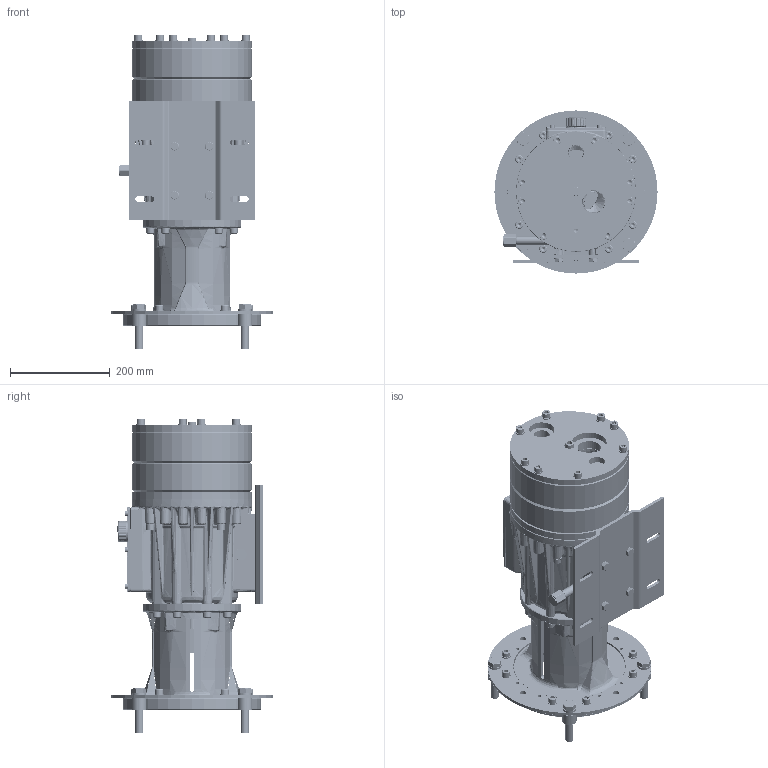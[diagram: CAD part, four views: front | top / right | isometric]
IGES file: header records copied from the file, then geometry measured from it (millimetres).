
Start section: SolidWorks IGES file using analytic representation for surfaces
Global section: file name: Q:\ENG\!!Gary\Outline-Dwgs\Latest-Pump-etc-OD\G25-P-1205-OD.IGS; native system: SolidWorks 2007; preprocessor: SolidWorks 2007; author: garyi; date: 081105.091538; units: inch
Bounding box: 327.66 x 327.66 x 629.5 mm (x, y, z)
Surface area: 2106730.1 mm2 (no closed solid volume)
Topology: 0 solids, 0 shells, 11719 faces, 130396 edges, 130313 vertices
Faces by surface type: revolution 7181, bspline 4538
